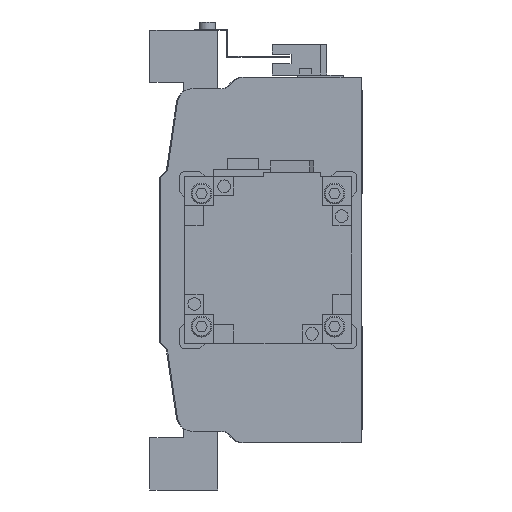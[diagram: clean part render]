
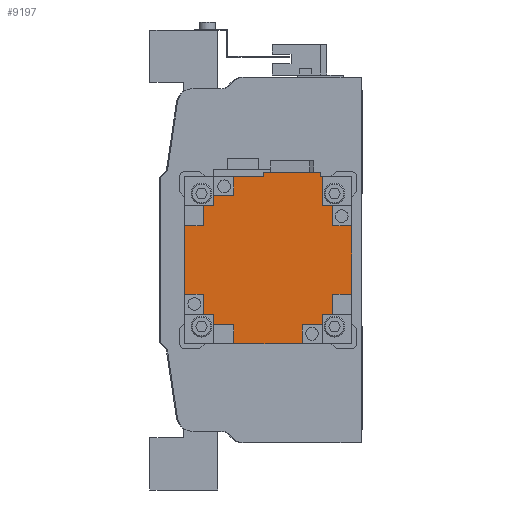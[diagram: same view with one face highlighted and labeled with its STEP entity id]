
A CAD part, left-side view. The second image highlights one B-rep face of the part: STEP entity #9197.
In plain terms, the highlighted planar face has unit normal (-1, 0, 0) as drawn and (0, 1, 0) by its records, which use the part's own axes.
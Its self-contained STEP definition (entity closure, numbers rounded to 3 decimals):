
#144=PLANE('',#9858);
#650=LINE('',#13602,#1701);
#659=LINE('',#13622,#1710);
#665=LINE('',#13634,#1716);
#668=LINE('',#13640,#1719);
#669=LINE('',#13643,#1720);
#670=LINE('',#13645,#1721);
#671=LINE('',#13647,#1722);
#672=LINE('',#13649,#1723);
#673=LINE('',#13651,#1724);
#674=LINE('',#13653,#1725);
#675=LINE('',#13655,#1726);
#676=LINE('',#13657,#1727);
#677=LINE('',#13659,#1728);
#678=LINE('',#13661,#1729);
#679=LINE('',#13663,#1730);
#680=LINE('',#13665,#1731);
#681=LINE('',#13667,#1732);
#682=LINE('',#13669,#1733);
#683=LINE('',#13671,#1734);
#684=LINE('',#13673,#1735);
#685=LINE('',#13675,#1736);
#686=LINE('',#13677,#1737);
#687=LINE('',#13679,#1738);
#688=LINE('',#13681,#1739);
#689=LINE('',#13682,#1740);
#690=LINE('',#13683,#1741);
#691=LINE('',#13684,#1742);
#692=LINE('',#13686,#1743);
#693=LINE('',#13688,#1744);
#694=LINE('',#13690,#1745);
#1701=VECTOR('',#10957,1000.);
#1710=VECTOR('',#10968,1000.);
#1716=VECTOR('',#10974,1000.);
#1719=VECTOR('',#10979,1000.);
#1720=VECTOR('',#10980,1000.);
#1721=VECTOR('',#10981,1000.);
#1722=VECTOR('',#10982,1000.);
#1723=VECTOR('',#10983,1000.);
#1724=VECTOR('',#10984,1000.);
#1725=VECTOR('',#10985,1000.);
#1726=VECTOR('',#10986,1000.);
#1727=VECTOR('',#10987,1000.);
#1728=VECTOR('',#10988,1000.);
#1729=VECTOR('',#10989,1000.);
#1730=VECTOR('',#10990,1000.);
#1731=VECTOR('',#10991,1000.);
#1732=VECTOR('',#10992,1000.);
#1733=VECTOR('',#10993,1000.);
#1734=VECTOR('',#10994,1000.);
#1735=VECTOR('',#10995,1000.);
#1736=VECTOR('',#10996,1000.);
#1737=VECTOR('',#10997,1000.);
#1738=VECTOR('',#10998,1000.);
#1739=VECTOR('',#10999,1000.);
#1740=VECTOR('',#11000,1000.);
#1741=VECTOR('',#11001,1000.);
#1742=VECTOR('',#11002,1000.);
#1743=VECTOR('',#11003,1000.);
#1744=VECTOR('',#11004,1000.);
#1745=VECTOR('',#11005,1000.);
#3039=ORIENTED_EDGE('',*,*,#5446,.T.);
#3040=ORIENTED_EDGE('',*,*,#5447,.T.);
#3041=ORIENTED_EDGE('',*,*,#5448,.T.);
#3042=ORIENTED_EDGE('',*,*,#5449,.T.);
#3043=ORIENTED_EDGE('',*,*,#5450,.T.);
#3044=ORIENTED_EDGE('',*,*,#5451,.F.);
#3045=ORIENTED_EDGE('',*,*,#5452,.F.);
#3046=ORIENTED_EDGE('',*,*,#5453,.T.);
#3047=ORIENTED_EDGE('',*,*,#5454,.T.);
#3048=ORIENTED_EDGE('',*,*,#5455,.T.);
#3049=ORIENTED_EDGE('',*,*,#5456,.T.);
#3050=ORIENTED_EDGE('',*,*,#5457,.T.);
#3051=ORIENTED_EDGE('',*,*,#5458,.F.);
#3052=ORIENTED_EDGE('',*,*,#5459,.F.);
#3053=ORIENTED_EDGE('',*,*,#5460,.T.);
#3054=ORIENTED_EDGE('',*,*,#5461,.T.);
#3055=ORIENTED_EDGE('',*,*,#5462,.T.);
#3056=ORIENTED_EDGE('',*,*,#5463,.T.);
#3057=ORIENTED_EDGE('',*,*,#5464,.T.);
#3058=ORIENTED_EDGE('',*,*,#5465,.F.);
#3059=ORIENTED_EDGE('',*,*,#5466,.F.);
#3060=ORIENTED_EDGE('',*,*,#5437,.T.);
#3061=ORIENTED_EDGE('',*,*,#5467,.F.);
#3062=ORIENTED_EDGE('',*,*,#5428,.F.);
#3063=ORIENTED_EDGE('',*,*,#5468,.T.);
#3064=ORIENTED_EDGE('',*,*,#5443,.T.);
#3065=ORIENTED_EDGE('',*,*,#5469,.T.);
#3066=ORIENTED_EDGE('',*,*,#5470,.T.);
#3067=ORIENTED_EDGE('',*,*,#5471,.F.);
#3068=ORIENTED_EDGE('',*,*,#5472,.F.);
#5428=EDGE_CURVE('',#6672,#6673,#650,.T.);
#5437=EDGE_CURVE('',#6682,#6680,#659,.T.);
#5443=EDGE_CURVE('',#6688,#6687,#665,.T.);
#5446=EDGE_CURVE('',#6690,#6691,#668,.T.);
#5447=EDGE_CURVE('',#6691,#6692,#669,.T.);
#5448=EDGE_CURVE('',#6692,#6693,#670,.T.);
#5449=EDGE_CURVE('',#6693,#6694,#671,.T.);
#5450=EDGE_CURVE('',#6694,#6695,#672,.T.);
#5451=EDGE_CURVE('',#6696,#6695,#673,.T.);
#5452=EDGE_CURVE('',#6697,#6696,#674,.T.);
#5453=EDGE_CURVE('',#6697,#6698,#675,.T.);
#5454=EDGE_CURVE('',#6698,#6699,#676,.T.);
#5455=EDGE_CURVE('',#6699,#6700,#677,.T.);
#5456=EDGE_CURVE('',#6700,#6701,#678,.T.);
#5457=EDGE_CURVE('',#6701,#6702,#679,.T.);
#5458=EDGE_CURVE('',#6703,#6702,#680,.T.);
#5459=EDGE_CURVE('',#6704,#6703,#681,.T.);
#5460=EDGE_CURVE('',#6704,#6705,#682,.T.);
#5461=EDGE_CURVE('',#6705,#6706,#683,.T.);
#5462=EDGE_CURVE('',#6706,#6707,#684,.T.);
#5463=EDGE_CURVE('',#6707,#6708,#685,.T.);
#5464=EDGE_CURVE('',#6708,#6709,#686,.T.);
#5465=EDGE_CURVE('',#6710,#6709,#687,.T.);
#5466=EDGE_CURVE('',#6682,#6710,#688,.T.);
#5467=EDGE_CURVE('',#6673,#6680,#689,.T.);
#5468=EDGE_CURVE('',#6672,#6688,#690,.T.);
#5469=EDGE_CURVE('',#6687,#6711,#691,.T.);
#5470=EDGE_CURVE('',#6711,#6712,#692,.T.);
#5471=EDGE_CURVE('',#6713,#6712,#693,.T.);
#5472=EDGE_CURVE('',#6690,#6713,#694,.T.);
#6672=VERTEX_POINT('',#13603);
#6673=VERTEX_POINT('',#13604);
#6680=VERTEX_POINT('',#13620);
#6682=VERTEX_POINT('',#13623);
#6687=VERTEX_POINT('',#13633);
#6688=VERTEX_POINT('',#13635);
#6690=VERTEX_POINT('',#13641);
#6691=VERTEX_POINT('',#13642);
#6692=VERTEX_POINT('',#13644);
#6693=VERTEX_POINT('',#13646);
#6694=VERTEX_POINT('',#13648);
#6695=VERTEX_POINT('',#13650);
#6696=VERTEX_POINT('',#13652);
#6697=VERTEX_POINT('',#13654);
#6698=VERTEX_POINT('',#13656);
#6699=VERTEX_POINT('',#13658);
#6700=VERTEX_POINT('',#13660);
#6701=VERTEX_POINT('',#13662);
#6702=VERTEX_POINT('',#13664);
#6703=VERTEX_POINT('',#13666);
#6704=VERTEX_POINT('',#13668);
#6705=VERTEX_POINT('',#13670);
#6706=VERTEX_POINT('',#13672);
#6707=VERTEX_POINT('',#13674);
#6708=VERTEX_POINT('',#13676);
#6709=VERTEX_POINT('',#13678);
#6710=VERTEX_POINT('',#13680);
#6711=VERTEX_POINT('',#13685);
#6712=VERTEX_POINT('',#13687);
#6713=VERTEX_POINT('',#13689);
#7773=EDGE_LOOP('',(#3039,#3040,#3041,#3042,#3043,#3044,#3045,#3046,#3047,
#3048,#3049,#3050,#3051,#3052,#3053,#3054,#3055,#3056,#3057,#3058,#3059,
#3060,#3061,#3062,#3063,#3064,#3065,#3066,#3067,#3068));
#8438=FACE_BOUND('',#7773,.T.);
#9197=ADVANCED_FACE('',(#8438),#144,.T.);
#9858=AXIS2_PLACEMENT_3D('',#13639,#10977,#10978);
#10957=DIRECTION('',(0.,0.,1.));
#10968=DIRECTION('',(0.,0.,-1.));
#10974=DIRECTION('',(0.,0.,-1.));
#10977=DIRECTION('',(0.,1.,0.));
#10978=DIRECTION('',(0.,0.,1.));
#10979=DIRECTION('',(-1.,0.,0.));
#10980=DIRECTION('',(0.,0.,-1.));
#10981=DIRECTION('',(-1.,0.,0.));
#10982=DIRECTION('',(0.,0.,1.));
#10983=DIRECTION('',(-1.,0.,0.));
#10984=DIRECTION('',(0.,0.,-1.));
#10985=DIRECTION('',(1.,0.,0.));
#10986=DIRECTION('',(0.,0.,1.));
#10987=DIRECTION('',(-1.,0.,0.));
#10988=DIRECTION('',(0.,0.,1.));
#10989=DIRECTION('',(1.,0.,0.));
#10990=DIRECTION('',(0.,0.,1.));
#10991=DIRECTION('',(-1.,0.,0.));
#10992=DIRECTION('',(0.,0.,-1.));
#10993=DIRECTION('',(1.,0.,0.));
#10994=DIRECTION('',(0.,0.,1.));
#10995=DIRECTION('',(1.,0.,0.));
#10996=DIRECTION('',(0.,0.,-1.));
#10997=DIRECTION('',(1.,0.,0.));
#10998=DIRECTION('',(0.,0.,1.));
#10999=DIRECTION('',(-1.,0.,0.));
#11000=DIRECTION('',(-1.,0.,0.));
#11001=DIRECTION('',(-1.,0.,0.));
#11002=DIRECTION('',(-1.,0.,0.));
#11003=DIRECTION('',(0.,0.,-1.));
#11004=DIRECTION('',(1.,0.,0.));
#11005=DIRECTION('',(0.,0.,1.));
#13602=CARTESIAN_POINT('',(42.,138.3,-2.2));
#13603=CARTESIAN_POINT('',(42.,138.3,-2.2));
#13604=CARTESIAN_POINT('',(42.,138.3,25.2));
#13620=CARTESIAN_POINT('',(39.95,138.3,25.2));
#13622=CARTESIAN_POINT('',(39.95,138.3,39.95));
#13623=CARTESIAN_POINT('',(39.95,138.3,25.95));
#13633=CARTESIAN_POINT('',(39.95,138.3,-16.35));
#13634=CARTESIAN_POINT('',(39.95,138.3,39.95));
#13635=CARTESIAN_POINT('',(39.95,138.3,-2.2));
#13639=CARTESIAN_POINT('',(0.,138.3,0.));
#13640=CARTESIAN_POINT('',(0.,138.3,-30.95));
#13641=CARTESIAN_POINT('',(25.95,138.3,-30.95));
#13642=CARTESIAN_POINT('',(16.35,138.3,-30.95));
#13643=CARTESIAN_POINT('',(16.35,138.3,0.));
#13644=CARTESIAN_POINT('',(16.35,138.3,-39.95));
#13645=CARTESIAN_POINT('',(39.95,138.3,-39.95));
#13646=CARTESIAN_POINT('',(-16.35,138.3,-39.95));
#13647=CARTESIAN_POINT('',(-16.35,138.3,0.));
#13648=CARTESIAN_POINT('',(-16.35,138.3,-30.95));
#13649=CARTESIAN_POINT('',(0.,138.3,-30.95));
#13650=CARTESIAN_POINT('',(-25.95,138.3,-30.95));
#13651=CARTESIAN_POINT('',(-25.95,138.3,0.));
#13652=CARTESIAN_POINT('',(-25.95,138.3,-25.95));
#13653=CARTESIAN_POINT('',(0.,138.3,-25.95));
#13654=CARTESIAN_POINT('',(-30.95,138.3,-25.95));
#13655=CARTESIAN_POINT('',(-30.95,138.3,0.));
#13656=CARTESIAN_POINT('',(-30.95,138.3,-16.35));
#13657=CARTESIAN_POINT('',(0.,138.3,-16.35));
#13658=CARTESIAN_POINT('',(-39.95,138.3,-16.35));
#13659=CARTESIAN_POINT('',(-39.95,138.3,-39.95));
#13660=CARTESIAN_POINT('',(-39.95,138.3,16.35));
#13661=CARTESIAN_POINT('',(0.,138.3,16.35));
#13662=CARTESIAN_POINT('',(-30.95,138.3,16.35));
#13663=CARTESIAN_POINT('',(-30.95,138.3,0.));
#13664=CARTESIAN_POINT('',(-30.95,138.3,25.95));
#13665=CARTESIAN_POINT('',(0.,138.3,25.95));
#13666=CARTESIAN_POINT('',(-25.95,138.3,25.95));
#13667=CARTESIAN_POINT('',(-25.95,138.3,0.));
#13668=CARTESIAN_POINT('',(-25.95,138.3,30.95));
#13669=CARTESIAN_POINT('',(0.,138.3,30.95));
#13670=CARTESIAN_POINT('',(-16.35,138.3,30.95));
#13671=CARTESIAN_POINT('',(-16.35,138.3,0.));
#13672=CARTESIAN_POINT('',(-16.35,138.3,39.95));
#13673=CARTESIAN_POINT('',(-39.95,138.3,39.95));
#13674=CARTESIAN_POINT('',(16.35,138.3,39.95));
#13675=CARTESIAN_POINT('',(16.35,138.3,0.));
#13676=CARTESIAN_POINT('',(16.35,138.3,30.95));
#13677=CARTESIAN_POINT('',(0.,138.3,30.95));
#13678=CARTESIAN_POINT('',(25.95,138.3,30.95));
#13679=CARTESIAN_POINT('',(25.95,138.3,0.));
#13680=CARTESIAN_POINT('',(25.95,138.3,25.95));
#13681=CARTESIAN_POINT('',(0.,138.3,25.95));
#13682=CARTESIAN_POINT('',(42.,138.3,25.2));
#13683=CARTESIAN_POINT('',(42.,138.3,-2.2));
#13684=CARTESIAN_POINT('',(0.,138.3,-16.35));
#13685=CARTESIAN_POINT('',(30.95,138.3,-16.35));
#13686=CARTESIAN_POINT('',(30.95,138.3,0.));
#13687=CARTESIAN_POINT('',(30.95,138.3,-25.95));
#13688=CARTESIAN_POINT('',(0.,138.3,-25.95));
#13689=CARTESIAN_POINT('',(25.95,138.3,-25.95));
#13690=CARTESIAN_POINT('',(25.95,138.3,0.));
